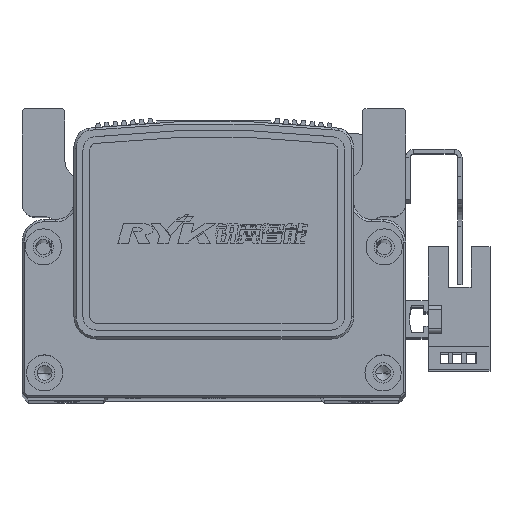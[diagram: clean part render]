
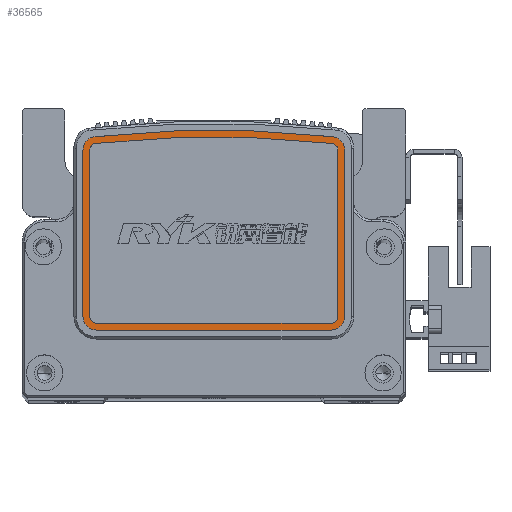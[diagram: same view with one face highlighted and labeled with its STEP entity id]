
A CAD part, top view. The second image highlights one B-rep face of the part: STEP entity #36565.
In plain terms, the highlighted planar face has unit normal (0, 0, 1) as drawn and (1, 0, 0) by its records, which use the part's own axes.
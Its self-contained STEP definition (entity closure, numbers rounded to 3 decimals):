
#1350 = VERTEX_POINT ( 'NONE', #17670 ) ;
#1384 = VERTEX_POINT ( 'NONE', #17699 ) ;
#1385 = VERTEX_POINT ( 'NONE', #17700 ) ;
#3241 = FACE_OUTER_BOUND ( 'NONE', #16151, .T. ) ;
#3252 = FACE_BOUND ( 'NONE', #16147, .T. ) ;
#3316 = AXIS2_PLACEMENT_3D ( 'NONE', #19796, #19797, #19798 ) ;
#4155 = VERTEX_POINT ( 'NONE', #17957 ) ;
#4255 = VERTEX_POINT ( 'NONE', #18001 ) ;
#4278 = VERTEX_POINT ( 'NONE', #18031 ) ;
#4337 = VERTEX_POINT ( 'NONE', #18048 ) ;
#4501 = VERTEX_POINT ( 'NONE', #18016 ) ;
#4517 = VERTEX_POINT ( 'NONE', #18020 ) ;
#4531 = VERTEX_POINT ( 'NONE', #18044 ) ;
#4538 = VERTEX_POINT ( 'NONE', #18002 ) ;
#4546 = VERTEX_POINT ( 'NONE', #18069 ) ;
#7083 = CARTESIAN_POINT ( 'NONE',  ( 9., 21.363, -26.16 ) ) ;
#7686 = CARTESIAN_POINT ( 'NONE',  ( 9., 19.871, -27.5 ) ) ;
#7687 = CARTESIAN_POINT ( 'NONE',  ( 9., -18.5, -26. ) ) ;
#7690 = CARTESIAN_POINT ( 'NONE',  ( 9., 19.871, 27.5 ) ) ;
#7728 = VERTEX_POINT ( 'NONE', #7687 ) ;
#7749 = VERTEX_POINT ( 'NONE', #7690 ) ;
#8108 = VERTEX_POINT ( 'NONE', #7686 ) ;
#8122 = VERTEX_POINT ( 'NONE', #7083 ) ;
#16147 = EDGE_LOOP ( 'NONE', ( #38025, #37996, #37974, #38006, #38065, #38051, #38039, #37966 ) ) ;
#16151 = EDGE_LOOP ( 'NONE', ( #38019, #37988, #38013, #37973, #37984, #38022, #38027, #38080 ) ) ;
#17670 = CARTESIAN_POINT ( 'NONE',  ( 9., 21.363, 26.16 ) ) ;
#17699 = CARTESIAN_POINT ( 'NONE',  ( 9., -18.5, 26. ) ) ;
#17700 = CARTESIAN_POINT ( 'NONE',  ( 9., -17., -27.5 ) ) ;
#17957 = CARTESIAN_POINT ( 'NONE',  ( 9., -17., 27.5 ) ) ;
#18001 = CARTESIAN_POINT ( 'NONE',  ( 9., -17., -29. ) ) ;
#18002 = CARTESIAN_POINT ( 'NONE',  ( 9., 19.871, -29. ) ) ;
#18016 = CARTESIAN_POINT ( 'NONE',  ( 9., 22.854, -26.321 ) ) ;
#18020 = CARTESIAN_POINT ( 'NONE',  ( 9., -17., 29. ) ) ;
#18031 = CARTESIAN_POINT ( 'NONE',  ( 9., 22.854, 26.321 ) ) ;
#18044 = CARTESIAN_POINT ( 'NONE',  ( 9., -20., 26. ) ) ;
#18048 = CARTESIAN_POINT ( 'NONE',  ( 9., -20., -26. ) ) ;
#18069 = CARTESIAN_POINT ( 'NONE',  ( 9., 19.871, 29. ) ) ;
#19795 = PLANE ( 'NONE',  #3316 ) ;
#19796 = CARTESIAN_POINT ( 'NONE',  ( 9., 19.871, 26. ) ) ;
#19797 = DIRECTION ( 'NONE',  ( 1., 0., 0. ) ) ;
#19798 = DIRECTION ( 'NONE',  ( 0., 0., -1. ) ) ;
#20560 = DIRECTION ( 'NONE',  ( 0., 0., -1. ) ) ;
#20570 = CARTESIAN_POINT ( 'NONE',  ( 9., -18.5, 26. ) ) ;
#20599 = CARTESIAN_POINT ( 'NONE',  ( 9., 19.871, -27.5 ) ) ;
#20649 = DIRECTION ( 'NONE',  ( 0., 1., 0. ) ) ;
#20655 = DIRECTION ( 'NONE',  ( 1., 0., 0. ) ) ;
#20665 = DIRECTION ( 'NONE',  ( 1., 0., 0. ) ) ;
#20671 = DIRECTION ( 'NONE',  ( 0., 0., 1. ) ) ;
#20677 = CARTESIAN_POINT ( 'NONE',  ( 9., 19.871, 26. ) ) ;
#20688 = CARTESIAN_POINT ( 'NONE',  ( 9., -222.049, 0. ) ) ;
#20690 = CARTESIAN_POINT ( 'NONE',  ( 9., -17., -26. ) ) ;
#20701 = DIRECTION ( 'NONE',  ( 0., 0., 1. ) ) ;
#20702 = DIRECTION ( 'NONE',  ( 1., 0., 0. ) ) ;
#20704 = DIRECTION ( 'NONE',  ( 0., 0., 1. ) ) ;
#20773 = CARTESIAN_POINT ( 'NONE',  ( 9., 19.871, 27.5 ) ) ;
#20798 = DIRECTION ( 'NONE',  ( 0., -1., 0. ) ) ;
#21004 = DIRECTION ( 'NONE',  ( 0., -1., 0. ) ) ;
#21010 = CARTESIAN_POINT ( 'NONE',  ( 9., -20., 26. ) ) ;
#21032 = CARTESIAN_POINT ( 'NONE',  ( 9., 19.871, 29. ) ) ;
#21074 = DIRECTION ( 'NONE',  ( 0., 0., -1. ) ) ;
#21164 = CARTESIAN_POINT ( 'NONE',  ( 9., -17., -29. ) ) ;
#21182 = DIRECTION ( 'NONE',  ( 0., 0., -1. ) ) ;
#21186 = DIRECTION ( 'NONE',  ( 1., 0., 0. ) ) ;
#21198 = DIRECTION ( 'NONE',  ( 0., 0., -1. ) ) ;
#21200 = CARTESIAN_POINT ( 'NONE',  ( 9., -17., -26. ) ) ;
#21205 = CARTESIAN_POINT ( 'NONE',  ( 9., -17., 26. ) ) ;
#21208 = DIRECTION ( 'NONE',  ( 0., 1., 0. ) ) ;
#21211 = DIRECTION ( 'NONE',  ( 1., 0., 0. ) ) ;
#21251 = DIRECTION ( 'NONE',  ( 0., 0., -1. ) ) ;
#21259 = CARTESIAN_POINT ( 'NONE',  ( 9., -222.049, 0. ) ) ;
#21289 = DIRECTION ( 'NONE',  ( 1., 0., 0. ) ) ;
#21380 = CARTESIAN_POINT ( 'NONE',  ( 9., 19.871, 26. ) ) ;
#21385 = DIRECTION ( 'NONE',  ( 1., 0., 0. ) ) ;
#21386 = DIRECTION ( 'NONE',  ( 0., 0., 1. ) ) ;
#21480 = DIRECTION ( 'NONE',  ( 1., 0., 0. ) ) ;
#21512 = CARTESIAN_POINT ( 'NONE',  ( 9., 19.871, -26. ) ) ;
#21543 = DIRECTION ( 'NONE',  ( 0., 0., -1. ) ) ;
#23231 = CARTESIAN_POINT ( 'NONE',  ( 9., 19.871, -26. ) ) ;
#23276 = DIRECTION ( 'NONE',  ( 1., 0., 0. ) ) ;
#23277 = DIRECTION ( 'NONE',  ( 0., 0., 1. ) ) ;
#23303 = DIRECTION ( 'NONE',  ( 0., 0., 1. ) ) ;
#23318 = DIRECTION ( 'NONE',  ( 1., 0., 0. ) ) ;
#23332 = CARTESIAN_POINT ( 'NONE',  ( 9., -17., 26. ) ) ;
#24548 = VECTOR ( 'NONE', #20560, 1000. ) ;
#24549 = CIRCLE ( 'NONE', #33124, 1.5 ) ;
#24550 = VECTOR ( 'NONE', #20649, 1000. ) ;
#24565 = LINE ( 'NONE', #20599, #24550 ) ;
#24584 = CIRCLE ( 'NONE', #33159, 244.813 ) ;
#24593 = CIRCLE ( 'NONE', #33130, 1.5 ) ;
#24601 = LINE ( 'NONE', #20570, #24548 ) ;
#25025 = LINE ( 'NONE', #20773, #25088 ) ;
#25052 = CIRCLE ( 'NONE', #33115, 1.5 ) ;
#25080 = CIRCLE ( 'NONE', #33180, 1.5 ) ;
#25088 = VECTOR ( 'NONE', #20798, 1000. ) ;
#33115 = AXIS2_PLACEMENT_3D ( 'NONE', #23332, #23318, #23303 ) ;
#33124 = AXIS2_PLACEMENT_3D ( 'NONE', #20690, #20702, #20704 ) ;
#33130 = AXIS2_PLACEMENT_3D ( 'NONE', #20677, #20655, #20671 ) ;
#33159 = AXIS2_PLACEMENT_3D ( 'NONE', #20688, #20665, #20701 ) ;
#33180 = AXIS2_PLACEMENT_3D ( 'NONE', #23231, #23276, #23277 ) ;
#33219 = AXIS2_PLACEMENT_3D ( 'NONE', #21200, #21186, #21198 ) ;
#33220 = AXIS2_PLACEMENT_3D ( 'NONE', #21259, #21289, #21251 ) ;
#33229 = AXIS2_PLACEMENT_3D ( 'NONE', #21380, #21385, #21386 ) ;
#33232 = AXIS2_PLACEMENT_3D ( 'NONE', #21205, #21211, #21182 ) ;
#33288 = AXIS2_PLACEMENT_3D ( 'NONE', #21512, #21480, #21543 ) ;
#36565 = ADVANCED_FACE ( 'NONE', ( #3252, #3241 ), #19795, .T. ) ;
#37966 = ORIENTED_EDGE ( 'NONE', *, *, #43601, .F. ) ;
#37973 = ORIENTED_EDGE ( 'NONE', *, *, #43699, .T. ) ;
#37974 = ORIENTED_EDGE ( 'NONE', *, *, #43590, .F. ) ;
#37984 = ORIENTED_EDGE ( 'NONE', *, *, #43738, .T. ) ;
#37988 = ORIENTED_EDGE ( 'NONE', *, *, #43705, .T. ) ;
#37996 = ORIENTED_EDGE ( 'NONE', *, *, #43555, .F. ) ;
#38006 = ORIENTED_EDGE ( 'NONE', *, *, #43602, .F. ) ;
#38013 = ORIENTED_EDGE ( 'NONE', *, *, #43736, .T. ) ;
#38019 = ORIENTED_EDGE ( 'NONE', *, *, #43775, .T. ) ;
#38022 = ORIENTED_EDGE ( 'NONE', *, *, #43739, .T. ) ;
#38025 = ORIENTED_EDGE ( 'NONE', *, *, #43610, .F. ) ;
#38027 = ORIENTED_EDGE ( 'NONE', *, *, #43804, .T. ) ;
#38039 = ORIENTED_EDGE ( 'NONE', *, *, #43632, .F. ) ;
#38051 = ORIENTED_EDGE ( 'NONE', *, *, #43561, .F. ) ;
#38065 = ORIENTED_EDGE ( 'NONE', *, *, #43582, .F. ) ;
#38080 = ORIENTED_EDGE ( 'NONE', *, *, #43751, .T. ) ;
#38755 = LINE ( 'NONE', #21032, #38756 ) ;
#38756 = VECTOR ( 'NONE', #21004, 1000. ) ;
#38786 = LINE ( 'NONE', #21010, #38787 ) ;
#38787 = VECTOR ( 'NONE', #21074, 1000. ) ;
#38813 = LINE ( 'NONE', #21164, #38823 ) ;
#38823 = VECTOR ( 'NONE', #21208, 1000. ) ;
#38826 = CIRCLE ( 'NONE', #33219, 3. ) ;
#38855 = CIRCLE ( 'NONE', #33232, 3. ) ;
#38876 = CIRCLE ( 'NONE', #33229, 3. ) ;
#38887 = CIRCLE ( 'NONE', #33220, 246.313 ) ;
#38974 = CIRCLE ( 'NONE', #33288, 3. ) ;
#43555 = EDGE_CURVE ( 'NONE', #8108, #8122, #25080, .T. ) ;
#43561 = EDGE_CURVE ( 'NONE', #4155, #1384, #25052, .T. ) ;
#43582 = EDGE_CURVE ( 'NONE', #1384, #7728, #24601, .T. ) ;
#43590 = EDGE_CURVE ( 'NONE', #1385, #8108, #24565, .T. ) ;
#43601 = EDGE_CURVE ( 'NONE', #1350, #7749, #24593, .T. ) ;
#43602 = EDGE_CURVE ( 'NONE', #7728, #1385, #24549, .T. ) ;
#43610 = EDGE_CURVE ( 'NONE', #8122, #1350, #24584, .T. ) ;
#43632 = EDGE_CURVE ( 'NONE', #7749, #4155, #25025, .T. ) ;
#43699 = EDGE_CURVE ( 'NONE', #4531, #4337, #38786, .T. ) ;
#43705 = EDGE_CURVE ( 'NONE', #4546, #4517, #38755, .T. ) ;
#43736 = EDGE_CURVE ( 'NONE', #4517, #4531, #38855, .T. ) ;
#43738 = EDGE_CURVE ( 'NONE', #4337, #4255, #38826, .T. ) ;
#43739 = EDGE_CURVE ( 'NONE', #4255, #4538, #38813, .T. ) ;
#43751 = EDGE_CURVE ( 'NONE', #4501, #4278, #38887, .T. ) ;
#43775 = EDGE_CURVE ( 'NONE', #4278, #4546, #38876, .T. ) ;
#43804 = EDGE_CURVE ( 'NONE', #4538, #4501, #38974, .T. ) ;
